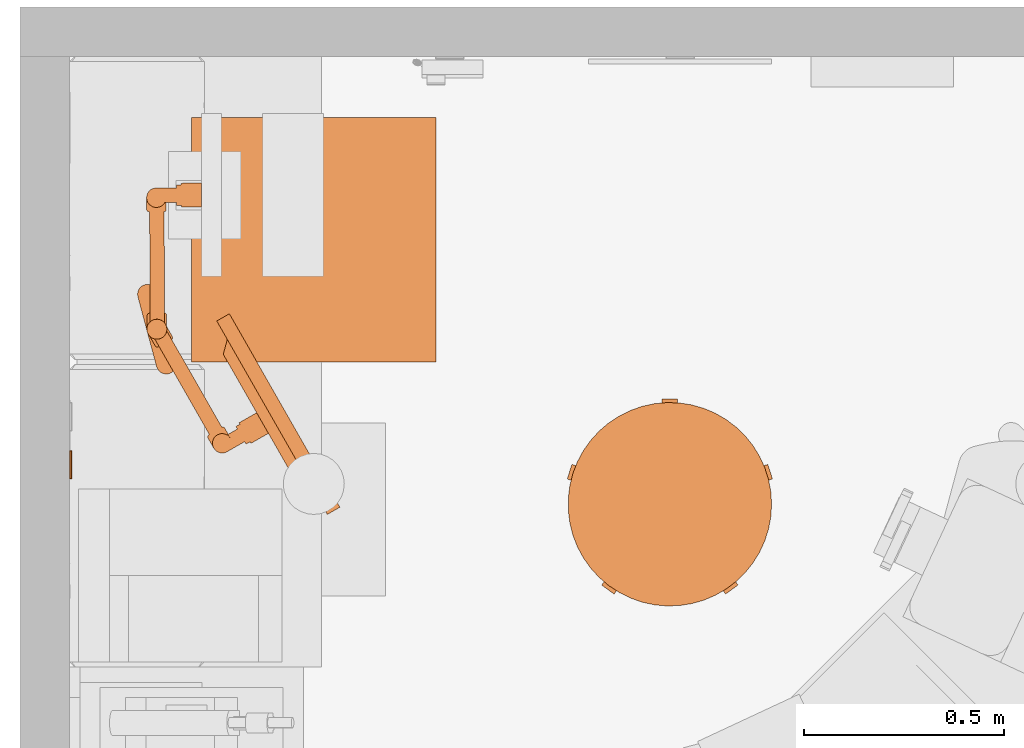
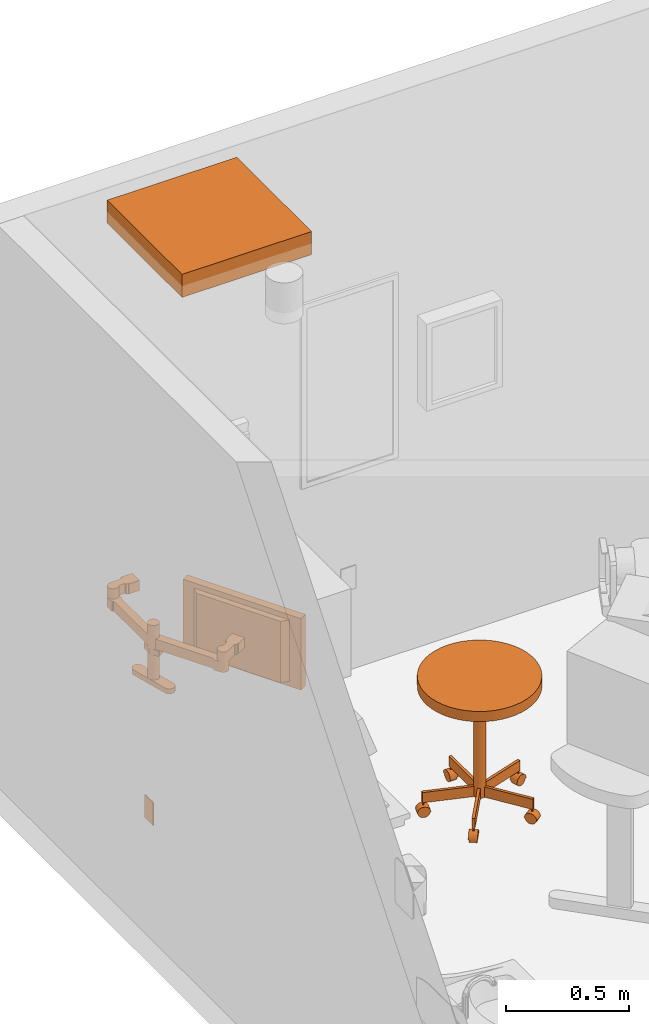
# One storey, part 6 of 12: 5 proxies.
"""IFC2X3 building model written with IfcOpenShell, lengths in feet."""

from ifc_helpers import new_model, entity, si_unit, converted_unit, derived_unit, direction, frame, frame_2d, origin, origin_2d_with_axis, place, context, subcontext, project, spatial, polyline, circle_curve, parameter, trimmed, segment, composite_curve, rectangle, circle, outline, extrude, source, transform, mapped, material, material_list, type_object, type_shapes, element, save


model = new_model("IFC2X3")

# Units and contexts
model_context = context("Model", 3, precision=0.0001, world=origin(), true_north=direction((6.12303176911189e-17, 1.0)))
body_context = subcontext(model_context, "Body", "Model", "MODEL_VIEW")
ifc_project = project(units=[converted_unit("LENGTHUNIT", "FOOT", entity("IfcRatioMeasure", 0.3048), si_unit("LENGTHUNIT", "METRE"), dimensions=[1, 0, 0, 0, 0, 0, 0]), converted_unit("AREAUNIT", "SQUARE FOOT", entity("IfcRatioMeasure", 0.09290304), si_unit("AREAUNIT", "SQUARE_METRE"), dimensions=[2, 0, 0, 0, 0, 0, 0]), converted_unit("VOLUMEUNIT", "CUBIC FOOT", entity("IfcRatioMeasure", 0.028316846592), si_unit("VOLUMEUNIT", "CUBIC_METRE"), dimensions=[3, 0, 0, 0, 0, 0, 0]), converted_unit("PLANEANGLEUNIT", "DEGREE", entity("IfcRatioMeasure", 0.0174532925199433), si_unit("PLANEANGLEUNIT", "RADIAN"), dimensions=[0, 0, 0, 0, 0, 0, 0]), si_unit("MASSUNIT", "GRAM", prefix="KILO"), derived_unit("MASSDENSITYUNIT", [(si_unit("MASSUNIT", "GRAM", prefix="KILO"), 1), (si_unit("LENGTHUNIT", "METRE"), -3)]), si_unit("TIMEUNIT", "SECOND"), si_unit("FREQUENCYUNIT", "HERTZ"), si_unit("THERMODYNAMICTEMPERATUREUNIT", "DEGREE_CELSIUS"), derived_unit("THERMALTRANSMITTANCEUNIT", [(si_unit("MASSUNIT", "GRAM", prefix="KILO"), 1), (si_unit("THERMODYNAMICTEMPERATUREUNIT", "KELVIN"), -1), (si_unit("TIMEUNIT", "SECOND"), -3)]), derived_unit("VOLUMETRICFLOWRATEUNIT", [(si_unit("LENGTHUNIT", "METRE"), 3), (si_unit("TIMEUNIT", "SECOND"), -1)]), si_unit("ELECTRICCURRENTUNIT", "AMPERE"), si_unit("ELECTRICVOLTAGEUNIT", "VOLT"), si_unit("POWERUNIT", "WATT"), si_unit("FORCEUNIT", "NEWTON"), si_unit("ILLUMINANCEUNIT", "LUX"), si_unit("LUMINOUSFLUXUNIT", "LUMEN"), si_unit("LUMINOUSINTENSITYUNIT", "CANDELA"), derived_unit("USERDEFINED", [(si_unit("MASSUNIT", "GRAM", prefix="KILO"), -1), (si_unit("LENGTHUNIT", "METRE"), -2), (si_unit("TIMEUNIT", "SECOND"), 3), (si_unit("LUMINOUSFLUXUNIT", "LUMEN"), 1)]), derived_unit("LINEARVELOCITYUNIT", [(si_unit("LENGTHUNIT", "METRE"), 1), (si_unit("TIMEUNIT", "SECOND"), -1)]), si_unit("PRESSUREUNIT", "PASCAL"), derived_unit("USERDEFINED", [(si_unit("LENGTHUNIT", "METRE"), -2), (si_unit("MASSUNIT", "GRAM", prefix="KILO"), 1), (si_unit("TIMEUNIT", "SECOND"), -2)])], contexts=[model_context])

# Site, building, storey, space
site_placement = place(None, origin())
site = spatial("IfcSite", under=ifc_project, at=site_placement, Name="Default", CompositionType="ELEMENT")
building_placement = place(site_placement, origin())
building = spatial("IfcBuilding", under=site, at=building_placement, Name="EYE CLINIC:  OPTHALMOLOGY AND OPTOMETRY SERVICES (Ch. 233)", CompositionType="ELEMENT")
storey_placement = place(building_placement, origin())
storey = spatial("IfcBuildingStorey", under=building, at=storey_placement, Name="DATUM", CompositionType="ELEMENT", Elevation=0.0)
space_placement = place(storey_placement, origin())
space = spatial("IfcSpace", under=storey, at=space_placement, Name="(OPPT2)", CompositionType="ELEMENT", InteriorOrExteriorSpace="INTERNAL")

# Proxies
building_element_proxy_type_1 = type_object("IfcBuildingElementProxyType", Name="24\" x 24\"", PredefinedType="NOTDEFINED")
shared_shape_1 = source(origin(), body_context, "Body", "SweptSolid", [
    extrude(rectangle(XDim=2.00000000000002, YDim=2.00000000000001, at=origin_2d_with_axis()), frame((0.0, 0.0, 8.0), z_axis=(0.0, 0.0, 1.0), x_axis=(0.0, 1.0, 0.0)), (0.0, 0.0, 1.0), 0.375),
])
type_shapes(building_element_proxy_type_1, [shared_shape_1])
proxy_1_placement = place(space_placement, frame((155.639769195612, 33.3076256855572, 1.0)))
element("IfcBuildingElementProxy", 1, at=proxy_1_placement, inside=space, type_object=building_element_proxy_type_1, Name="Supply Diffuser:24\" x 24\"", ObjectType="24\" x 24\"", context=body_context, shape_type="MappedRepresentation", body=[
    mapped(shared_shape_1, transform((0.0, 0.0, 0.0), scale=1.0)),
])
ifc_material_1 = material(Name="Stool caster")
ifc_material_2 = material(Name="Stool metal")
ifc_material_3 = material(Name="Stool cushion")
ifc_material_list_1 = material_list([ifc_material_1, ifc_material_2, ifc_material_3])
ifc_material_list_2 = material_list([ifc_material_1, ifc_material_2, ifc_material_3])
building_element_proxy_type_2 = type_object("IfcBuildingElementProxyType", Name="F0340 - Stool, Self Adjusting", PredefinedType="NOTDEFINED", material=ifc_material_list_2)
shared_shape_2 = source(origin(), body_context, "Body", "SweptSolid", [
    extrude(circle(Radius=0.084518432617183, at=frame_2d((0.0, -1.38777878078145e-16), x_axis=(1.0, 0.0))), frame((0.717011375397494, 0.287734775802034, 0.0845184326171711), z_axis=(0.309016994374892, -0.951056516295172, 0.0), x_axis=(-0.951056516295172, -0.309016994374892, 0.0)), (0.0, 0.0, 1.0), 0.104166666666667),
    extrude(outline(composite_curve([segment(polyline([(-0.0925649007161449, 0.0), (0.0925649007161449, 0.0)]), True, "CONTINUOUS"), segment(trimmed(circle_curve(origin_2d_with_axis(), 0.0925649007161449), [parameter(2.03555499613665e-13)], [parameter(180.0)], True, "PARAMETER"), True, "CONTINUOUS")], self_intersect=False)), frame((0.752419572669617, 0.178759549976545, 0.0845184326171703), z_axis=(-0.309016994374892, 0.951056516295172, 0.0), x_axis=(-0.951056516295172, -0.309016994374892, 0.0)), (0.0, 0.0, 1.0), 0.125),
    extrude(circle(Radius=0.0115130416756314, at=frame_2d((7.9106571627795e-18, 1.14165428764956e-16), x_axis=(1.0, 0.0))), frame((0.73310678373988, 0.238198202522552, 0.177083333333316), z_axis=(0.0, 0.0, 1.0), x_axis=(0.309016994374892, -0.951056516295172, 0.0)), (0.0, 0.0, 1.0), 0.0442708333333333),
    extrude(rectangle(XDim=0.0416641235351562, YDim=0.7059128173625, at=frame_2d((1.38777878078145e-17, 0.0), x_axis=(1.0, 0.0))), frame((0.412570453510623, 0.134049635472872, 0.221354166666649), z_axis=(0.0, 0.0, 1.0), x_axis=(-0.309016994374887, 0.951056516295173, 0.0)), (0.0, 0.0, 1.0), 0.166666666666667),
    extrude(circle(Radius=0.084518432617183, at=frame_2d((0.0, -3.7470027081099e-16), x_axis=(1.0, 0.0))), frame((0.410948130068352, -0.654231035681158, 0.0845184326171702), z_axis=(0.809016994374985, 0.587785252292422, 0.0), x_axis=(-0.587785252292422, 0.809016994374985, 0.0)), (0.0, 0.0, 1.0), 0.104166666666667),
    extrude(outline(composite_curve([segment(polyline([(-0.0925649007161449, 0.0), (0.0925649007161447, 0.0)]), True, "CONTINUOUS"), segment(trimmed(circle_curve(origin_2d_with_axis(), 0.0925649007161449), [parameter(2.03555499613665e-13)], [parameter(180.0)], True, "PARAMETER"), True, "CONTINUOUS")], self_intersect=False)), frame((0.402520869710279, -0.660353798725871, 0.0845184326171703), z_axis=(0.809016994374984, 0.587785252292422, 0.0), x_axis=(-0.587785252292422, 0.809016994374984, 0.0)), (0.0, 0.0, 1.0), 0.125),
    extrude(circle(Radius=0.0115130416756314, at=origin_2d_with_axis()), frame((0.453082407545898, -0.623618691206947, 0.177083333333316), z_axis=(0.0, 0.0, 1.0), x_axis=(-0.809016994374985, -0.587785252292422, 0.0)), (0.0, 0.0, 1.0), 0.0442708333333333),
    extrude(rectangle(XDim=0.0416641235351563, YDim=0.705912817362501, at=frame_2d((0.0, -1.38777878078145e-16), x_axis=(1.0, 0.0))), frame((0.254980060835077, -0.350954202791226, 0.221354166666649), z_axis=(0.0, 0.0, 1.0), x_axis=(0.809016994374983, 0.587785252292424, 0.0)), (0.0, 0.0, 1.0), 0.166666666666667),
    extrude(circle(Radius=0.084518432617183, at=frame_2d((-3.2628636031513e-17, -1.38777878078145e-16), x_axis=(1.0, 0.0))), frame((-0.410948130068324, -0.654231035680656, 0.0845184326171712), z_axis=(-0.809016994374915, 0.587785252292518, 0.0), x_axis=(0.587785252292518, 0.809016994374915, 0.0)), (0.0, 0.0, 1.0), 0.104166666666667),
    extrude(outline(composite_curve([segment(trimmed(circle_curve(origin_2d_with_axis(), 0.0925649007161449), [parameter(180.0)], [parameter(360.0)], True, "PARAMETER"), True, "CONTINUOUS"), segment(polyline([(0.0925649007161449, 0.0), (-0.0925649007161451, 0.0)]), True, "CONTINUOUS")], self_intersect=False)), frame((-0.402520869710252, -0.66035379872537, 0.0845184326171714), z_axis=(-0.809016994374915, 0.587785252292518, 0.0), x_axis=(0.587785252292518, 0.809016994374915, 0.0)), (0.0, 0.0, 1.0), 0.125),
    extrude(circle(Radius=0.0115130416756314, at=frame_2d((-4.49094647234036e-17, -3.2628636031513e-17), x_axis=(1.0, 0.0))), frame((-0.453086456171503, -0.623615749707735, 0.177083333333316), z_axis=(0.0, 0.0, 1.0), x_axis=(-0.809016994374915, 0.587785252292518, 0.0)), (0.0, 0.0, 1.0), 0.0442708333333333),
    extrude(rectangle(XDim=0.0416641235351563, YDim=0.7059128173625, at=frame_2d((-4.16333634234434e-17, 5.55111512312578e-17), x_axis=(1.0, 0.0))), frame((-0.254984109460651, -0.350951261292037, 0.221354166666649), z_axis=(0.0, 0.0, 1.0), x_axis=(0.809016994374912, -0.587785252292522, 0.0)), (0.0, 0.0, 1.0), 0.166666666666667),
    extrude(circle(Radius=0.084518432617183, at=frame_2d((0.0, -1.38777878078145e-16), x_axis=(1.0, 0.0))), frame((-0.749200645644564, 0.188666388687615, 0.0845184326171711), z_axis=(0.309016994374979, 0.951056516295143, 0.0), x_axis=(0.951056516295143, -0.309016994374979, 0.0)), (0.0, 0.0, 1.0), 0.104166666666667),
    extrude(outline(composite_curve([segment(trimmed(circle_curve(origin_2d_with_axis(), 0.0925649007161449), [parameter(180.0)], [parameter(360.0)], True, "PARAMETER"), True, "CONTINUOUS"), segment(polyline([(0.0925649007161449, 0.0), (-0.0925649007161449, 0.0)]), True, "CONTINUOUS")], self_intersect=False)), frame((-0.752419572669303, 0.178759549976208, 0.0845184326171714), z_axis=(0.309016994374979, 0.951056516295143, 0.0), x_axis=(0.951056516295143, -0.309016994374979, 0.0)), (0.0, 0.0, 1.0), 0.125),
    extrude(circle(Radius=0.0115130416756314, at=frame_2d((7.91065716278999e-18, -1.14165428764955e-16), x_axis=(1.0, 0.0))), frame((-0.733105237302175, 0.238202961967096, 0.177083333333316), z_axis=(0.0, 0.0, 1.0), x_axis=(0.309016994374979, 0.951056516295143, 0.0)), (0.0, 0.0, 1.0), 0.0442708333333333),
    extrude(rectangle(XDim=0.0416641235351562, YDim=0.7059128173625, at=origin_2d_with_axis()), frame((-0.412568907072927, 0.134054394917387, 0.221354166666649), z_axis=(0.0, 0.0, 1.0), x_axis=(-0.309016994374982, -0.951056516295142, 0.0)), (0.0, 0.0, 1.0), 0.166666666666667),
    extrude(circle(Radius=0.084518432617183, at=frame_2d((-1.76415182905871e-31, -1.38777878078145e-16), x_axis=(1.0, 0.0))), frame((-0.0520833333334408, 0.770833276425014, 0.0845184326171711), z_axis=(1.0, 0.0, 0.0), x_axis=(0.0, -1.0, 0.0)), (0.0, 0.0, 1.0), 0.104166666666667),
    extrude(outline(composite_curve([segment(trimmed(circle_curve(origin_2d_with_axis(), 0.0925649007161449), [parameter(180.0)], [parameter(360.0)], True, "PARAMETER"), True, "CONTINUOUS"), segment(polyline([(0.0925649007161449, 0.0), (-0.0925649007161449, 0.0)]), True, "CONTINUOUS")], self_intersect=False)), frame((-0.0625000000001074, 0.770833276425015, 0.0845184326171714), z_axis=(1.0, 0.0, 0.0), x_axis=(0.0, -1.0, 0.0)), (0.0, 0.0, 1.0), 0.125),
    extrude(circle(Radius=0.0115130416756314, at=frame_2d((7.04731412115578e-19, 1.79171670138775e-32), x_axis=(1.0, 0.0))), frame((2.50218814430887e-06, 0.770833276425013, 0.177083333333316)), (0.0, 0.0, 1.0), 0.0442708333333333),
    extrude(rectangle(XDim=0.0416641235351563, YDim=0.7059128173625, at=frame_2d((3.46944695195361e-18, 5.55111512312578e-17), x_axis=(1.0, 0.0))), frame((2.50218813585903e-06, 0.433801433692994, 0.221354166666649), z_axis=(0.0, 0.0, 1.0), x_axis=(-1.0, 0.0, 0.0)), (0.0, 0.0, 1.0), 0.166666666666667),
    extrude(circle(Radius=0.0834863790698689, at=frame_2d((2.89333175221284e-18, -1.34875966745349e-16), x_axis=(1.0, 0.0))), frame((0.0, 0.0, 0.221354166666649)), (0.0, 0.0, 1.0), 1.77864583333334),
    extrude(circle(Radius=0.833333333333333, at=frame_2d((2.28760446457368e-17, -1.34628714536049e-15), x_axis=(1.0, 0.0))), frame((0.0, 0.0, 2.0)), (0.0, 0.0, 1.0), 0.166666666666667),
])
type_shapes(building_element_proxy_type_2, [shared_shape_2])
proxy_2_placement = place(space_placement, frame((158.556435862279, 31.1409590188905, 0.0)))
element("IfcBuildingElementProxy", 2, at=proxy_2_placement, inside=space, type_object=building_element_proxy_type_2, material=ifc_material_list_1, Name="F0340 - Stool, Self Adjusting:F0340 - Stool, Self Adjusting", ObjectType="F0340 - Stool, Self Adjusting", context=body_context, shape_type="MappedRepresentation", body=[
    mapped(shared_shape_2, transform((0.0, 0.0, 0.0), scale=1.0)),
])
building_element_proxy_type_3 = type_object("IfcBuildingElementProxyType", Name="A5225 - Dual  Flat Panel Monitor ARMS", PredefinedType="NOTDEFINED")
shared_shape_3 = source(origin(), body_context, "Body", "SweptSolid", [
    extrude(outline(composite_curve([segment(trimmed(circle_curve(frame_2d((-0.790855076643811, -0.00490841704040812), x_axis=(0.254554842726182, -0.967058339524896)), 0.0820209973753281), [parameter(25.1937534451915)], [parameter(117.785704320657)], True, "PARAMETER"), False, "CONTINUOUS"), segment(polyline([(-0.738197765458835, -0.0677944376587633), (0.171197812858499, -0.0677944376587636)]), True, "CONTINUOUS"), segment(trimmed(circle_curve(frame_2d((0.188411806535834, -0.0675795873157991), x_axis=(0.254554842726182, -0.967058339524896)), 0.0172153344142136), [parameter(255.967870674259)], [parameter(345.252790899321)], True, "PARAMETER"), True, "CONTINUOUS"), segment(polyline([(0.188411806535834, -0.0847949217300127), (0.288518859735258, -0.0847949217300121)]), True, "CONTINUOUS"), segment(trimmed(circle_curve(frame_2d((0.286061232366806, -0.0049273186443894), x_axis=(0.254554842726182, -0.967058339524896)), 0.0799054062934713), [parameter(347.01529850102)], [parameter(165.252790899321)], True, "PARAMETER"), True, "CONTINUOUS"), segment(polyline([(0.286061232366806, 0.0749780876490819), (0.192029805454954, 0.0749780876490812)]), True, "CONTINUOUS"), segment(trimmed(circle_curve(frame_2d((0.192029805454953, 0.0541447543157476), x_axis=(0.254554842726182, -0.967058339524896)), 0.0208333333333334), [parameter(165.252790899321)], [parameter(255.252790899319)], True, "PARAMETER"), True, "CONTINUOUS"), segment(polyline([(0.17119647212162, 0.0541447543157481), (0.17119647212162, 0.0505388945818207)]), True, "CONTINUOUS"), segment(polyline([(0.17119647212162, 0.0505388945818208), (-0.730414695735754, 0.0505388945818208)]), True, "CONTINUOUS")], self_intersect=False)), frame((-0.766443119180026, 0.426874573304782, 0.588770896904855), z_axis=(0.0, 0.0, -1.0), x_axis=(-0.967058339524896, -0.25455484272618, 0.0)), (0.0, 0.0, -1.0), 0.166666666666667),
    extrude(outline(composite_curve([segment(trimmed(circle_curve(frame_2d((-0.0257333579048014, -0.00677368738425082), x_axis=(1.0, 0.0)), 0.0799054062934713), [parameter(194.747209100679)], [parameter(12.9847014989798)], True, "PARAMETER"), True, "CONTINUOUS"), segment(polyline([(0.0521288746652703, 0.0111803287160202), (0.0508776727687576, 0.015933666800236)]), True, "CONTINUOUS"), segment(trimmed(circle_curve(frame_2d((-0.0257333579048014, -0.00677368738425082), x_axis=(1.0, 0.0)), 0.0799054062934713), [parameter(16.5097167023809)], [parameter(194.747209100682)], True, "PARAMETER"), True, "CONTINUOUS")], self_intersect=False)), frame((-1.03505305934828, 0.323557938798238, 0.755437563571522), z_axis=(0.0, 0.0, 1.0), x_axis=(0.0, -1.0, 0.0)), (0.0, 0.0, 1.0), 0.166666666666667),
    extrude(outline(composite_curve([segment(trimmed(circle_curve(frame_2d((0.0724992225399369, 0.012189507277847), x_axis=(1.0, 0.0)), 0.059894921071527), [parameter(284.74720910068)], [parameter(104.747026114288)], True, "PARAMETER"), True, "CONTINUOUS"), segment(polyline([(0.0572528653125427, 0.0701114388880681), (-0.0376511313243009, 0.0451305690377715)]), True, "CONTINUOUS"), segment(trimmed(circle_curve(frame_2d((-0.0944490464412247, -0.0110732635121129), x_axis=(1.0, 0.0)), 0.0799054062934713), [parameter(16.5097167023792)], [parameter(44.6987824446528)], True, "PARAMETER"), False, "CONTINUOUS"), segment(polyline([(-0.0178380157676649, 0.0116340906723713), (-0.0165868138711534, 0.00688075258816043)]), True, "CONTINUOUS"), segment(trimmed(circle_curve(frame_2d((-0.0944490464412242, -0.0110732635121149), x_axis=(1.0, 0.0)), 0.0799054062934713), [parameter(285.628462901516)], [parameter(12.984701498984)], True, "PARAMETER"), False, "CONTINUOUS"), segment(polyline([(-0.0729226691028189, -0.0880244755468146), (0.087745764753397, -0.045732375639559)]), True, "CONTINUOUS")], self_intersect=False)), frame((-1.03075348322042, 0.254842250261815, 0.755437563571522), z_axis=(0.0, 0.0, 1.0), x_axis=(0.0, -1.0, 0.0)), (0.0, 0.0, 1.0), 0.166666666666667),
    extrude(outline(composite_curve([segment(polyline([(0.0602572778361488, -0.0554648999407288), (0.0827848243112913, -0.0554648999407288)]), True, "CONTINUOUS"), segment(polyline([(0.0827848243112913, -0.0554648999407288), (0.0827848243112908, -0.0179714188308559)]), True, "CONTINUOUS"), segment(polyline([(0.0827848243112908, -0.0179714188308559), (0.0978778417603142, -0.0179714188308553)]), True, "CONTINUOUS"), segment(polyline([(0.0978778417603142, -0.0179714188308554), (0.0978778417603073, 0.147303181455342)]), True, "CONTINUOUS"), segment(polyline([(0.0978778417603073, 0.147303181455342), (-0.0971477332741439, 0.146442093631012)]), True, "CONTINUOUS"), segment(polyline([(-0.0971477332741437, 0.146442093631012), (-0.0971477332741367, -0.0179714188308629)]), True, "CONTINUOUS"), segment(polyline([(-0.0971477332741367, -0.0179714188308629), (-0.0838818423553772, -0.0179714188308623)]), True, "CONTINUOUS"), segment(polyline([(-0.0838818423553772, -0.0179714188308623), (-0.0838818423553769, -0.0554648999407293)]), True, "CONTINUOUS"), segment(polyline([(-0.0838818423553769, -0.0554648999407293), (-0.0595234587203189, -0.0554648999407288)]), True, "CONTINUOUS"), segment(trimmed(circle_curve(frame_2d((0.000366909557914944, -0.0547264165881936), x_axis=(0.2545517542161, 0.967059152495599)), 0.059894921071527), [parameter(284.040571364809)], [parameter(105.453480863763)], True, "PARAMETER"), False, "CONTINUOUS")], self_intersect=False)), frame((-1.00427844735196, 0.129512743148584, 0.755437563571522), z_axis=(0.0, 0.0, 1.0), x_axis=(-0.9670591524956, -0.254551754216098, 0.0)), (0.0, 0.0, 1.0), 0.166666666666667),
    extrude(outline(composite_curve([segment(polyline([(-0.0382992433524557, -0.0723910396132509), (-0.0325648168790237, -0.0941765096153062)]), True, "CONTINUOUS"), segment(polyline([(-0.0325648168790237, -0.0941765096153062), (0.00369359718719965, -0.0846324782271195)]), True, "CONTINUOUS"), segment(polyline([(0.00369359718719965, -0.0846324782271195), (0.0075355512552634, -0.0992283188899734)]), True, "CONTINUOUS"), segment(polyline([(0.0075355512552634, -0.0992283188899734), (0.16736586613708, -0.0571573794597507)]), True, "CONTINUOUS"), segment(polyline([(0.16736586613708, -0.0571573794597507), (0.116889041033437, 0.131224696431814)]), True, "CONTINUOUS"), segment(polyline([(0.116889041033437, 0.131224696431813), (-0.0421085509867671, 0.0893729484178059)]), True, "CONTINUOUS"), segment(polyline([(-0.0421085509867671, 0.0893729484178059), (-0.0387316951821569, 0.0765440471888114)]), True, "CONTINUOUS"), segment(polyline([(-0.0387316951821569, 0.0765440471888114), (-0.0749901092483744, 0.0670000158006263)]), True, "CONTINUOUS"), segment(polyline([(-0.0749901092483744, 0.0670000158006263), (-0.0687896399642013, 0.0434440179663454)]), True, "CONTINUOUS"), segment(trimmed(circle_curve(frame_2d((-0.0528302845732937, -0.0142855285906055), x_axis=(1.0, 0.0)), 0.059894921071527), [parameter(284.040571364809)], [parameter(105.453480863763)], True, "PARAMETER"), False, "CONTINUOUS")], self_intersect=False)), frame((1.0034971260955, 0.129512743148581, 0.755437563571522), z_axis=(0.0, 0.0, -1.0), x_axis=(0.0, -1.0, 0.0)), (0.0, 0.0, -1.0), 0.166666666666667),
    extrude(outline(composite_curve([segment(polyline([(-0.0732138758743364, -0.0665619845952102), (0.0929275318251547, -0.0665619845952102)]), True, "CONTINUOUS"), segment(trimmed(circle_curve(frame_2d((0.0941564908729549, 0.0133339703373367), x_axis=(-0.967058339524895, -0.254554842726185)), 0.0799054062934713), [parameter(347.015298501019)], [parameter(74.3715370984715)], True, "PARAMETER"), False, "CONTINUOUS"), segment(polyline([(0.0142888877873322, 0.0108763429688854), (0.0142888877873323, 0.0157915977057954)]), True, "CONTINUOUS"), segment(trimmed(circle_curve(frame_2d((0.0941564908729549, 0.013333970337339), x_axis=(-0.967058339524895, -0.254554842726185)), 0.0799054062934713), [parameter(315.301217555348)], [parameter(343.490283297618)], True, "PARAMETER"), False, "CONTINUOUS"), segment(polyline([(0.0249226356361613, 0.0532281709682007), (-0.0732140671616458, 0.0532278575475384)]), True, "CONTINUOUS"), segment(trimmed(circle_curve(frame_2d((-0.0732138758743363, -0.00666706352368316), x_axis=(-0.967058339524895, -0.254554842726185)), 0.059894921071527), [parameter(255.252973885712)], [parameter(75.2527908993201)], True, "PARAMETER"), True, "CONTINUOUS")], self_intersect=False)), frame((1.02997216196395, 0.254842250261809, 0.755437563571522), z_axis=(0.0, 0.0, 1.0), x_axis=(0.254554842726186, 0.967058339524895, 0.0)), (0.0, 0.0, 1.0), 0.166666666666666),
    extrude(outline(composite_curve([segment(trimmed(circle_curve(frame_2d((-0.0257333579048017, 0.00677368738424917), x_axis=(1.0, 0.0)), 0.0799054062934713), [parameter(165.252790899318)], [parameter(343.490283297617)], True, "PARAMETER"), True, "CONTINUOUS"), segment(polyline([(0.0508776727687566, -0.01593366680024), (0.0521288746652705, -0.0111803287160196)]), True, "CONTINUOUS"), segment(trimmed(circle_curve(frame_2d((-0.0257333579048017, 0.00677368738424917), x_axis=(1.0, 0.0)), 0.0799054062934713), [parameter(347.015298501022)], [parameter(165.25279089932)], True, "PARAMETER"), True, "CONTINUOUS")], self_intersect=False)), frame((1.03427173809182, 0.323557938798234, 0.755437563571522), z_axis=(0.0, 0.0, 1.0), x_axis=(0.0, -1.0, 0.0)), (0.0, 0.0, 1.0), 0.166666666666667),
    extrude(circle(Radius=0.0820209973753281, at=frame_2d((-2.3534863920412e-31, 1.32489505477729e-16), x_axis=(1.0, 0.0))), frame((-0.000390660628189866, 0.624030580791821, 0.588770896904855), z_axis=(0.0, 0.0, 1.0), x_axis=(0.0, -1.0, 0.0)), (0.0, 0.0, 1.0), 0.385601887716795),
    extrude(outline(composite_curve([segment(polyline([(-0.234804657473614, 0.693488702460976), (-0.00529516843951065, -0.178421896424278)]), True, "CONTINUOUS"), segment(polyline([(-0.00529516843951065, -0.178421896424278), (-0.00878224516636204, -0.179339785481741)]), True, "CONTINUOUS"), segment(trimmed(circle_curve(frame_2d((-0.00347901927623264, -0.199486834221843), x_axis=(1.0, 0.0)), 0.0208333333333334), [parameter(104.747209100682)], [parameter(194.747209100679)], True, "PARAMETER"), True, "CONTINUOUS"), segment(polyline([(-0.0236260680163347, -0.204790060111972), (0.000310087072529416, -0.295723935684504)]), True, "CONTINUOUS"), segment(trimmed(circle_curve(frame_2d((0.0775832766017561, -0.275383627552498), x_axis=(1.0, 0.0)), 0.0799054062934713), [parameter(194.747209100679)], [parameter(12.9847014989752)], True, "PARAMETER"), True, "CONTINUOUS"), segment(polyline([(0.155445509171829, -0.257429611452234), (0.129962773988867, -0.160620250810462)]), True, "CONTINUOUS"), segment(trimmed(circle_curve(frame_2d((0.113314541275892, -0.16500249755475), x_axis=(1.0, 0.0)), 0.0172153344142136), [parameter(14.7472091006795)], [parameter(104.032129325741)], True, "PARAMETER"), True, "CONTINUOUS"), segment(polyline([(0.109140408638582, -0.148300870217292), (-0.122350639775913, 0.731137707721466)]), True, "CONTINUOUS"), segment(trimmed(circle_curve(frame_2d((-0.196569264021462, 0.76605245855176), x_axis=(1.0, 0.0)), 0.0820209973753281), [parameter(242.214295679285)], [parameter(334.806246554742)], True, "PARAMETER"), False, "CONTINUOUS")], self_intersect=False)), frame((0.765661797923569, 0.426874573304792, 0.588770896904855), z_axis=(0.0, 0.0, -1.0), x_axis=(0.0, -1.0, 0.0)), (0.0, 0.0, -1.0), 0.166666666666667),
    extrude(outline(composite_curve([segment(polyline([(-0.0275603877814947, -0.104702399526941), (0.104720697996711, -0.104702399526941)]), True, "CONTINUOUS"), segment(trimmed(circle_curve(frame_2d((0.104720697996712, -0.0838690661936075), x_axis=(0.254554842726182, 0.967058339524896)), 0.0208333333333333), [parameter(194.747209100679)], [parameter(284.74720910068)], True, "PARAMETER"), True, "CONTINUOUS"), segment(polyline([(0.125554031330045, -0.0838690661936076), (0.125554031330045, 0.0378552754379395)]), True, "CONTINUOUS"), segment(trimmed(circle_curve(frame_2d((0.108338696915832, 0.0378552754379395), x_axis=(0.254554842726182, 0.967058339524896)), 0.0172153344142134), [parameter(284.747209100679)], [parameter(14.7472091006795)], True, "PARAMETER"), True, "CONTINUOUS"), segment(polyline([(0.108338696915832, 0.0550706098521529), (0.0144960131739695, 0.055070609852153)]), True, "CONTINUOUS"), segment(polyline([(0.0144960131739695, 0.055070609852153), (-0.0671850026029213, 0.101273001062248)]), True, "CONTINUOUS"), segment(trimmed(circle_curve(frame_2d((-0.0756607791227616, 0.0862887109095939), x_axis=(0.254554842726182, 0.967058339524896)), 0.0172153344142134), [parameter(345.25279089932)], [parameter(75.2527908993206)], True, "PARAMETER"), True, "CONTINUOUS"), segment(polyline([(-0.0906450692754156, 0.0947644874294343), (-0.150574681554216, -0.0111848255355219)]), True, "CONTINUOUS"), segment(trimmed(circle_curve(frame_2d((-0.132441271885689, -0.0214418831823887), x_axis=(0.254554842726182, 0.967058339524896)), 0.0208333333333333), [parameter(75.2527908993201)], [parameter(165.25279089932)], True, "PARAMETER"), True, "CONTINUOUS"), segment(polyline([(-0.142698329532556, -0.0395752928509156), (-0.0275603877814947, -0.104702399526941)]), True, "CONTINUOUS")], self_intersect=False)), frame((-0.000390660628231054, 0.597782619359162, 0.505437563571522), z_axis=(0.0, 0.0, 1.0), x_axis=(-0.967058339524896, -0.254554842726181, 0.0)), (0.0, 0.0, 1.0), 0.083333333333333),
    extrude(circle(Radius=0.0820209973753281, at=frame_2d((-2.3534863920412e-31, 1.32489505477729e-16), x_axis=(1.0, 0.0))), frame((-0.000390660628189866, 0.623443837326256, 0.0887708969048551), z_axis=(0.0, 0.0, 1.0), x_axis=(0.0, -1.0, 0.0)), (0.0, 0.0, 1.0), 0.416666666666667),
    extrude(outline(composite_curve([segment(trimmed(circle_curve(frame_2d((0.0, -0.295275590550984), x_axis=(1.0, 0.0)), 0.0820209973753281), [parameter(180.0)], [parameter(360.0)], True, "PARAMETER"), True, "CONTINUOUS"), segment(polyline([(0.0820209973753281, -0.295275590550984), (0.0820209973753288, 0.295275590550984)]), True, "CONTINUOUS"), segment(trimmed(circle_curve(frame_2d((0.0, 0.295275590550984), x_axis=(1.0, 0.0)), 0.0820209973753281), [parameter(0.0)], [parameter(180.0)], True, "PARAMETER"), True, "CONTINUOUS"), segment(polyline([(-0.0820209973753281, 0.295275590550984), (-0.0820209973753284, -0.295275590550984)]), True, "CONTINUOUS")], self_intersect=False)), frame((-0.000390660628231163, 0.623443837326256, 0.00543756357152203), z_axis=(0.0, 0.0, 1.0), x_axis=(0.0, -1.0, 0.0)), (0.0, 0.0, 1.0), 0.083333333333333),
])
type_shapes(building_element_proxy_type_3, [shared_shape_3])
proxy_3_placement = place(space_placement, frame((154.957298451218, 32.7367432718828, 2.66666666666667), z_axis=(0.0, 0.0, 1.0), x_axis=(-0.258819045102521, 0.965925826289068, 0.0)))
element("IfcBuildingElementProxy", 3, at=proxy_3_placement, inside=space, type_object=building_element_proxy_type_3, Name="A5225 - Dual Monitor Arms:A5225 - Dual  Flat Panel Monitor ARMS", ObjectType="A5225 - Dual  Flat Panel Monitor ARMS", context=body_context, shape_type="MappedRepresentation", body=[
    mapped(shared_shape_3, transform((0.0, 0.0, 0.0), scale=1.0)),
])
building_element_proxy_type_4 = type_object("IfcBuildingElementProxyType", Name="M1800 - Computer with Double Flat Panel Monitors", PredefinedType="NOTDEFINED")
shared_shape_4 = source(origin(), body_context, "Body", "SweptSolid", [
    extrude(outline(polyline([(-0.648704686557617, -0.0446704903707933), (0.648704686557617, -0.0446704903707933), (0.738045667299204, 0.0446704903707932), (-0.738045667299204, 0.0446704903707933), (-0.648704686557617, -0.0446704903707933)])), frame((0.0, 0.0446704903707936, 0.255437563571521), z_axis=(0.0, 0.0, 1.0), x_axis=(-1.0, 0.0, 0.0)), (0.0, 0.0, 1.0), 0.999999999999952),
    extrude(rectangle(XDim=1.825, YDim=0.118992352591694, at=origin_2d_with_axis()), frame((-0.000550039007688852, -0.0594961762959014, 0.172104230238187), z_axis=(0.0, 0.0, 1.0), x_axis=(-1.0, 0.0, 0.0)), (0.0, 0.0, 1.0), 1.16666666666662),
])
type_shapes(building_element_proxy_type_4, [shared_shape_4])
proxy_4_placement = place(space_placement, frame((155.297766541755, 31.8502635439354, 2.79166666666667), z_axis=(0.0, 0.0, 1.0), x_axis=(-0.496171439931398, 0.868224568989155, 0.0)))
element("IfcBuildingElementProxy", 4, at=proxy_4_placement, inside=space, type_object=building_element_proxy_type_4, Name="M1800 - Monitor, Computer:M1800 - Computer with Double Flat Panel Monitors", ObjectType="M1800 - Computer with Double Flat Panel Monitors", context=body_context, shape_type="MappedRepresentation", body=[
    mapped(shared_shape_4, transform((0.0, 0.0, 0.0), scale=1.0)),
])
building_element_proxy_type_5 = type_object("IfcBuildingElementProxyType", Name="Telephone/Data", PredefinedType="NOTDEFINED")
shared_shape_5 = source(origin(), body_context, "Body", "SweptSolid", [
    extrude(rectangle(XDim=0.0156249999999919, YDim=0.229166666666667, at=origin_2d_with_axis()), frame((0.0, 0.210937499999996, 0.0), z_axis=(0.0, 0.0, 1.0), x_axis=(0.0, 1.0, 0.0)), (0.0, 0.0, 1.0), 0.375),
])
type_shapes(building_element_proxy_type_5, [shared_shape_5])
proxy_5_placement = place(space_placement, frame((153.436644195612, 31.4638756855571, 1.3125), z_axis=(0.0, 0.0, 1.0), x_axis=(0.0, -1.0, 0.0)))
element("IfcBuildingElementProxy", 5, at=proxy_5_placement, inside=space, type_object=building_element_proxy_type_5, Name="Outlet, Communications:Telephone/Data", ObjectType="Telephone/Data", context=body_context, shape_type="MappedRepresentation", body=[
    mapped(shared_shape_5, transform((0.0, 0.0, 0.0), scale=1.0)),
])

save(model, "model.ifc")
